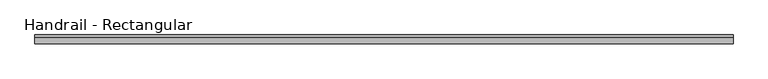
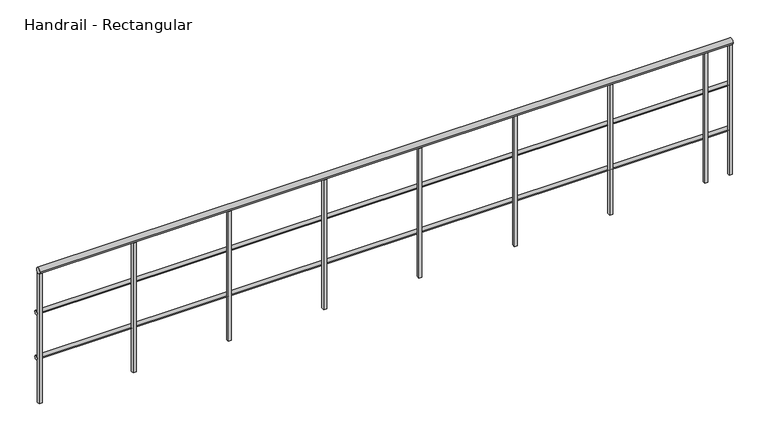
"""IFC4 building model written with IfcOpenShell, lengths in millimetres: railing geometry, Handrail - Rectangular."""

import ifcopenshell
import ifcopenshell.guid

model = None  # the IFC model being written
_history = None  # IfcOwnerHistory: only IFC2X3 demands one
_inside = {}  # id of a spatial element -> (the spatial element, [elements in it])
_under = {}  # id of a project, library or spatial element -> (it, [spatial elements below it])
_declared = {}  # id of a project -> (the project, [libraries it declares])
_typed = {}  # id of a type object -> (the type object, [elements of that type])
_made_of = {}  # id of a material, layer set ... -> (it, [elements and type objects made of it])


def new_model(schema):
    """Start an empty IFC model of exactly this schema.

    Asked for "IFC4X3", IfcOpenShell would pick the latest addendum, in which some entities
    have other attributes; the version numbers below select the first issue.
    IFC2X3 requires an IfcOwnerHistory on every rooted entity: one is made here for all.
    """
    global model, _history
    if schema == "IFC4X3":
        model = ifcopenshell.file(schema_version=(4, 3, 0, 0))
    else:
        model = ifcopenshell.file(schema=schema)
    _inside.clear()
    _under.clear()
    _declared.clear()
    _typed.clear()
    _made_of.clear()
    _history = None
    if model.schema == "IFC2X3":
        org = make("IfcOrganization", Name="unknown")
        user = make(
            "IfcPersonAndOrganization",
            ThePerson=make("IfcPerson", FamilyName="unknown"),
            TheOrganization=org,
        )
        app = make(
            "IfcApplication",
            ApplicationDeveloper=org,
            Version="unknown",
            ApplicationFullName="unknown",
            ApplicationIdentifier="unknown",
        )
        _history = make(
            "IfcOwnerHistory",
            OwningUser=user,
            OwningApplication=app,
            ChangeAction="ADDED",
            CreationDate=0,
        )
    return model


def make(cls, **values):
    """One entity of the class cls with the attributes given. An attribute that is None is left unset."""
    return model.create_entity(
        cls, **{name: value for name, value in values.items() if value is not None}
    )


def rooted(cls, **values):
    """An entity with a GlobalId (a new one), such as an element, a storey or a relation."""
    return make(cls, GlobalId=ifcopenshell.guid.new(), OwnerHistory=_history, **values)


def si_unit(unit_type, name, prefix=None):
    """IfcSIUnit, for example si_unit("LENGTHUNIT", "METRE", prefix="MILLI")."""
    return make("IfcSIUnit", UnitType=unit_type, Prefix=prefix, Name=name)


def assignment(units):
    """IfcUnitAssignment: the units of a project."""
    return None if units is None else make("IfcUnitAssignment", Units=units)


def point(xyz):
    """IfcCartesianPoint."""
    return None if xyz is None else make("IfcCartesianPoint", Coordinates=xyz)


def direction(xyz):
    """IfcDirection."""
    return None if xyz is None else make("IfcDirection", DirectionRatios=xyz)


def frame(location, z_axis=None, x_axis=None):
    """IfcAxis2Placement3D, a coordinate frame: its origin and axes. An axis left out is left unset."""
    return make(
        "IfcAxis2Placement3D",
        Location=point(location),
        Axis=direction(z_axis),
        RefDirection=direction(x_axis),
    )


def frame_2d(location, x_axis=None):
    """IfcAxis2Placement2D, a coordinate frame in the plane: its origin and x axis."""
    return make(
        "IfcAxis2Placement2D", Location=point(location), RefDirection=direction(x_axis)
    )


def origin():
    """The frame at (0, 0, 0) with its axes left unset."""
    return frame((0.0, 0.0, 0.0))


def place(relative_to, where):
    """IfcLocalPlacement: puts the frame where relative to a parent placement (None: the world)."""
    return make(
        "IfcLocalPlacement", PlacementRelTo=relative_to, RelativePlacement=where
    )


def context(
    kind, dimensions, precision=None, world=None, true_north=None, identifier=None
):
    """IfcGeometricRepresentationContext, for example the 3D "Model" context."""
    return make(
        "IfcGeometricRepresentationContext",
        ContextIdentifier=identifier,
        ContextType=kind,
        CoordinateSpaceDimension=dimensions,
        Precision=precision,
        WorldCoordinateSystem=world,
        TrueNorth=true_north,
    )


def project(units=None, contexts=None):
    """IfcProject with its units and contexts."""
    return rooted(
        "IfcProject",
        Name="project",
        RepresentationContexts=contexts,
        UnitsInContext=assignment(units),
    )


def spatial(cls, under=None, at=None, **own):
    """A site, building, storey or space (cls), placed at a placement, below another one or the project."""
    s = rooted(cls, ObjectPlacement=at, **own)
    if under is not None:
        _under.setdefault(under.id(), (under, []))[1].append(s)
    return s


def polyline(points):
    """IfcPolyline through the points."""
    return make("IfcPolyline", Points=[point(p) for p in points])


def circle_curve(where, radius):
    """IfcCircle in the frame where."""
    return make("IfcCircle", Position=where, Radius=radius)


def trimmed(basis, trim1, trim2, sense, master):
    """IfcTrimmedCurve: the piece of a basis curve between two trims."""
    return make(
        "IfcTrimmedCurve",
        BasisCurve=basis,
        Trim1=trim1,
        Trim2=trim2,
        SenseAgreement=sense,
        MasterRepresentation=master,
    )


def segment(curve, same_sense, transition):
    """IfcCompositeCurveSegment."""
    return make(
        "IfcCompositeCurveSegment",
        Transition=transition,
        SameSense=same_sense,
        ParentCurve=curve,
    )


def composite_curve(segments, self_intersect=None):
    """IfcCompositeCurve: segments joined end to end."""
    return make("IfcCompositeCurve", Segments=segments, SelfIntersect=self_intersect)


def outline(outer, holes=None, kind="AREA"):
    """IfcArbitraryClosedProfileDef: a profile drawn as a closed curve; with holes, ...WithVoids."""
    if holes is None:
        return make("IfcArbitraryClosedProfileDef", ProfileType=kind, OuterCurve=outer)
    return make(
        "IfcArbitraryProfileDefWithVoids",
        ProfileType=kind,
        OuterCurve=outer,
        InnerCurves=holes,
    )


def extrude(swept, where, along, depth):
    """IfcExtrudedAreaSolid: the profile swept, set in the frame where, extruded along a direction by depth."""
    return make(
        "IfcExtrudedAreaSolid",
        SweptArea=swept,
        Position=where,
        ExtrudedDirection=direction(along),
        Depth=depth,
    )


def shape(context_of_items, identifier, shape_type, items):
    """IfcShapeRepresentation: the items that make up one representation, for example the "Body"."""
    return make(
        "IfcShapeRepresentation",
        ContextOfItems=context_of_items,
        RepresentationIdentifier=identifier,
        RepresentationType=shape_type,
        Items=items,
    )


def source(mapping_origin, context_of_items, identifier, shape_type, items):
    """IfcRepresentationMap: a shape defined once, which mapped items show again and again."""
    return make(
        "IfcRepresentationMap",
        MappingOrigin=mapping_origin,
        MappedRepresentation=shape(context_of_items, identifier, shape_type, items),
    )


def transform(
    local_origin,
    x_axis=None,
    y_axis=None,
    z_axis=None,
    scale=None,
    scale2=None,
    scale3=None,
    uniform=True,
):
    """IfcCartesianTransformationOperator3D, or its non-uniform kind. x_axis, y_axis, z_axis: its Axis1, 2, 3."""
    if uniform:
        return make(
            "IfcCartesianTransformationOperator3D",
            Axis1=direction(x_axis),
            Axis2=direction(y_axis),
            LocalOrigin=point(local_origin),
            Scale=scale,
            Axis3=direction(z_axis),
        )
    return make(
        "IfcCartesianTransformationOperator3DnonUniform",
        Axis1=direction(x_axis),
        Axis2=direction(y_axis),
        LocalOrigin=point(local_origin),
        Scale=scale,
        Axis3=direction(z_axis),
        Scale2=scale2,
        Scale3=scale3,
    )


def mapped(mapping_source, mapping_target):
    """IfcMappedItem: shows the shape of a source again, moved by a transform."""
    return make(
        "IfcMappedItem", MappingSource=mapping_source, MappingTarget=mapping_target
    )


def made_of(thing, what):
    """Note that an element or type object is made of a material, layer set ...; save() writes the relation."""
    if what is not None:
        _made_of.setdefault(what.id(), (what, []))[1].append(thing)
    return thing


def element(
    cls,
    number,
    at=None,
    inside=None,
    cuts=None,
    type_object=None,
    material=None,
    context=None,
    identifier="Body",
    shape_type=None,
    held_by="IfcProductDefinitionShape",
    body=None,
    shapes=None,
    **own,
):
    """One element of the class cls, such as IfcWall. Its Tag is "e" and its number.

    at: its placement. inside: the storey or other place that contains it. cuts: it is an
    opening in that element (IfcRelVoidsElement). A single representation is given by context,
    identifier, shape_type and body (its items); several are given by shapes. held_by: the class
    of the entity that holds the representations. save() writes the other relations.
    """
    e = rooted(cls, Tag="e%d" % number, ObjectPlacement=at, **own)
    if body is not None:
        shapes = [shape(context, identifier, shape_type, body)]
    if shapes is not None:
        e.Representation = make(held_by, Representations=shapes)
    if inside is not None:
        _inside.setdefault(inside.id(), (inside, []))[1].append(e)
    if cuts is not None:
        rooted(
            "IfcRelVoidsElement", RelatingBuildingElement=cuts, RelatedOpeningElement=e
        )
    if type_object is not None:
        _typed.setdefault(type_object.id(), (type_object, []))[1].append(e)
    return made_of(e, material)


def aggregate(whole, parts):
    """IfcRelAggregates: a whole, such as a stair, and the parts it consists of."""
    return rooted("IfcRelAggregates", RelatingObject=whole, RelatedObjects=parts)


def save(model, path):
    """Write the relations noted so far, then the file.

    IfcRelAggregates (storeys below a building ...), IfcRelContainedInSpatialStructure (elements
    in a storey), IfcRelDefinesByType, IfcRelAssociatesMaterial and IfcRelDeclares: one each for
    every whole, place, type object, material and project.
    """
    for whole, parts in _under.values():
        aggregate(whole, parts)
    for where, things in _inside.values():
        rooted(
            "IfcRelContainedInSpatialStructure",
            RelatedElements=things,
            RelatingStructure=where,
        )
    for kind, things in _typed.values():
        rooted("IfcRelDefinesByType", RelatedObjects=things, RelatingType=kind)
    for what, things in _made_of.values():
        rooted("IfcRelAssociatesMaterial", RelatedObjects=things, RelatingMaterial=what)
    for by, libraries in _declared.values():
        rooted("IfcRelDeclares", RelatingContext=by, RelatedDefinitions=libraries)
    model.write(path)


def handrail_rectangular_01eef90d(model_context):
    return source(origin(), model_context, "Body", "SweptSolid", [
        extrude(outline(composite_curve([segment(trimmed(circle_curve(frame_2d((11970.2316867, 3644.9)), 12.7), [point((11982.9316867, 3644.9))], [point((11957.5316867, 3644.9))], False, "CARTESIAN"), True, "CONTINUOUS"), segment(trimmed(circle_curve(frame_2d((11970.2316867, 3644.9)), 12.7), [point((11957.5316867, 3644.9))], [point((11982.9316867, 3644.9))], False, "CARTESIAN"), True, "CONTINUOUS")], self_intersect=False)), frame((-3862.3589563, 0.0, 0.0), z_axis=(1.0, 0.0, 0.0), x_axis=(0.0, 1.0, 0.0)), (0.0, 0.0, 1.0), 4432.3),
        extrude(outline(composite_curve([segment(trimmed(circle_curve(frame_2d((11970.2316867, 3340.1)), 12.7), [point((11982.9316867, 3340.1))], [point((11957.5316867, 3340.1))], False, "CARTESIAN"), True, "CONTINUOUS"), segment(trimmed(circle_curve(frame_2d((11970.2316867, 3340.1)), 12.7), [point((11957.5316867, 3340.1))], [point((11982.9316867, 3340.1))], False, "CARTESIAN"), True, "CONTINUOUS")], self_intersect=False)), frame((-3862.3589563, 0.0, 0.0), z_axis=(1.0, 0.0, 0.0), x_axis=(0.0, 1.0, 0.0)), (0.0, 0.0, 1.0), 4432.3),
        extrude(outline(composite_curve([segment(trimmed(circle_curve(frame_2d((11944.8316867, 3943.35)), 19.05), [point((11963.8816867, 3943.35))], [point((11925.7816867, 3943.35))], False, "CARTESIAN"), True, "CONTINUOUS"), segment(trimmed(circle_curve(frame_2d((11944.8316867, 3943.35)), 19.05), [point((11925.7816867, 3943.35))], [point((11963.8816867, 3943.35))], False, "CARTESIAN"), True, "CONTINUOUS")], self_intersect=False)), frame((-3862.3589563, 0.0, 0.0), z_axis=(1.0, 0.0, 0.0), x_axis=(0.0, 1.0, 0.0)), (0.0, 0.0, 1.0), 4432.3),
        extrude(outline(polyline([(395.3160437, 11935.3066867), (395.3160437, 11954.3566867), (414.3660437, 11954.3566867), (414.3660437, 11935.3066867), (395.3160437, 11935.3066867)])), frame((0.0, 0.0, 3048.0), z_axis=(0.0, 0.0, 1.0), x_axis=(1.0, 0.0, 0.0)), (0.0, 0.0, 1.0), 876.3),
        extrude(outline(polyline([(-214.2839563, 11935.3066867), (-214.2839563, 11954.3566867), (-195.2339563, 11954.3566867), (-195.2339563, 11935.3066867), (-214.2839563, 11935.3066867)])), frame((0.0, 0.0, 3048.0), z_axis=(0.0, 0.0, 1.0), x_axis=(1.0, 0.0, 0.0)), (0.0, 0.0, 1.0), 876.3),
        extrude(outline(polyline([(-823.8839563, 11935.3066867), (-823.8839563, 11954.3566867), (-804.8339563, 11954.3566867), (-804.8339563, 11935.3066867), (-823.8839563, 11935.3066867)])), frame((0.0, 0.0, 3048.0), z_axis=(0.0, 0.0, 1.0), x_axis=(1.0, 0.0, 0.0)), (0.0, 0.0, 1.0), 876.3),
        extrude(outline(polyline([(-1433.4839563, 11935.3066867), (-1433.4839563, 11954.3566867), (-1414.4339563, 11954.3566867), (-1414.4339563, 11935.3066867), (-1433.4839563, 11935.3066867)])), frame((0.0, 0.0, 3048.0), z_axis=(0.0, 0.0, 1.0), x_axis=(1.0, 0.0, 0.0)), (0.0, 0.0, 1.0), 876.3),
        extrude(outline(polyline([(-2043.0839563, 11935.3066867), (-2043.0839563, 11954.3566867), (-2024.0339563, 11954.3566867), (-2024.0339563, 11935.3066867), (-2043.0839563, 11935.3066867)])), frame((0.0, 0.0, 3048.0), z_axis=(0.0, 0.0, 1.0), x_axis=(1.0, 0.0, 0.0)), (0.0, 0.0, 1.0), 876.3),
        extrude(outline(polyline([(-2652.6839563, 11935.3066867), (-2652.6839563, 11954.3566867), (-2633.6339563, 11954.3566867), (-2633.6339563, 11935.3066867), (-2652.6839563, 11935.3066867)])), frame((0.0, 0.0, 3048.0), z_axis=(0.0, 0.0, 1.0), x_axis=(1.0, 0.0, 0.0)), (0.0, 0.0, 1.0), 876.3),
        extrude(outline(polyline([(-3262.2839563, 11935.3066867), (-3262.2839563, 11954.3566867), (-3243.2339563, 11954.3566867), (-3243.2339563, 11935.3066867), (-3262.2839563, 11935.3066867)])), frame((0.0, 0.0, 3048.0), z_axis=(0.0, 0.0, 1.0), x_axis=(1.0, 0.0, 0.0)), (0.0, 0.0, 1.0), 876.3),
        extrude(outline(polyline([(550.8910437, 11935.3066867), (550.8910437, 11954.3566867), (569.9410437, 11954.3566867), (569.9410437, 11935.3066867), (550.8910437, 11935.3066867)])), frame((0.0, 0.0, 3048.0), z_axis=(0.0, 0.0, 1.0), x_axis=(1.0, 0.0, 0.0)), (0.0, 0.0, 1.0), 876.3),
        extrude(outline(polyline([(-3862.3589563, 11935.3066867), (-3862.3589563, 11954.3566867), (-3843.3089563, 11954.3566867), (-3843.3089563, 11935.3066867), (-3862.3589563, 11935.3066867)])), frame((0.0, 0.0, 3048.0), z_axis=(0.0, 0.0, 1.0), x_axis=(1.0, 0.0, 0.0)), (0.0, 0.0, 1.0), 876.3),
    ])


if __name__ == "__main__":
    model = new_model("IFC4")
    model_context = context("Model", 3, world=origin())
    ifc_project = project(units=[si_unit("LENGTHUNIT", "METRE", prefix="MILLI")], contexts=[model_context])
    site = spatial("IfcSite", under=ifc_project)
    building = spatial("IfcBuilding", under=site)
    placement = place(None, origin())
    handrail_rectangular_shape = handrail_rectangular_01eef90d(model_context)
    element("IfcRailing", 1, ObjectType="Handrail - Rectangular", at=placement, inside=building, context=model_context, shape_type="MappedRepresentation", body=[
        mapped(handrail_rectangular_shape, transform((0.0, 0.0, 0.0), x_axis=(1.0, 0.0, 0.0), y_axis=(0.0, 1.0, 0.0), z_axis=(0.0, 0.0, 1.0))),
    ])
    save(model, "model.ifc")
